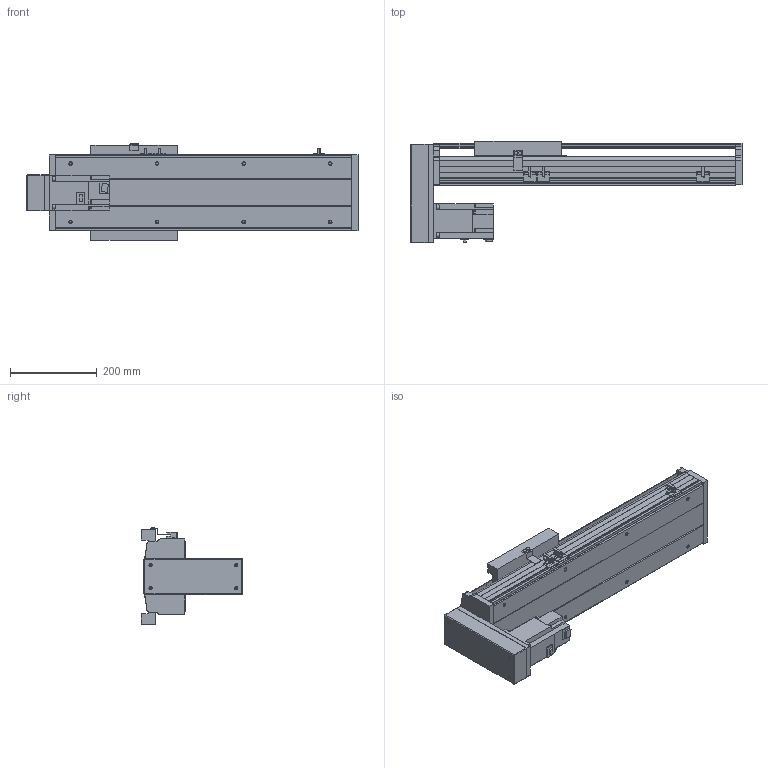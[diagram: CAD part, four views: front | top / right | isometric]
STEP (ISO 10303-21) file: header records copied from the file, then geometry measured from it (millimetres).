
FILE_DESCRIPTION( ( 'STEP AP214' ), '1' );
FILE_NAME( 'x:/temp/worker_27/temp/exporttempdir_6708_421_Gfw3y/format_0/PSS200-L10-S350-BM-T75-C1-N(0).stp', '2022-06-06T02:44:29', ( 'License CC BY-ND 4.0' ), ( 'CADENAS' ), ' ', 'PARTsolutions', ' ' );
FILE_SCHEMA( ( 'AUTOMOTIVE_DESIGN { 1 0 10303 214 1 1 1 1 }' ) );
Length unit declared in the file: millimetre
Products named in the file (8): PSS200-L10-S350-BM-T75-C1-N(0); _PSS200-S350-BM-C1-N_body; _PSS200-N_Q; _PSS200-BM-C1-N_sl; _PSS200-N_sensor; _PSS200BM-N_h; _T75-p1; _PSS200-S350-BM-N_S
Assembly tree (9 placements, depth 2):
  PSS200-L10-S350-BM-T75-C1-N(0)
    _PSS200-S350-BM-C1-N_body
    _PSS200-N_Q
    _PSS200-BM-C1-N_sl
    _PSS200-N_sensor  x3
    _PSS200BM-N_h
    _T75-p1
    _PSS200-S350-BM-N_S
Bounding box: 766.85 x 234.45 x 223.86 mm (x, y, z)
Volume: 6356416.9 mm3; surface area: 1330413.4 mm2
Topology: 9 solids, 9 shells, 590 faces, 1577 edges, 1046 vertices
Faces by surface type: plane 452, cylinder 118, cone 16, sphere 4
Full cylindrical faces by diameter (mm): 4 x2, 4.5 x4, 6 x7, 6.647 x12, 7.4 x4, 8 x8, 10 x6, 25 x1, 40 x1, 67 x1
Entity records: 20669 total; most frequent: CARTESIAN_POINT 2869, DIRECTION 2707, ORIENTED_EDGE 2698, EDGE_CURVE 1349, LINE 1071, VECTOR 1071, VERTEX_POINT 932, AXIS2_PLACEMENT_3D 818
